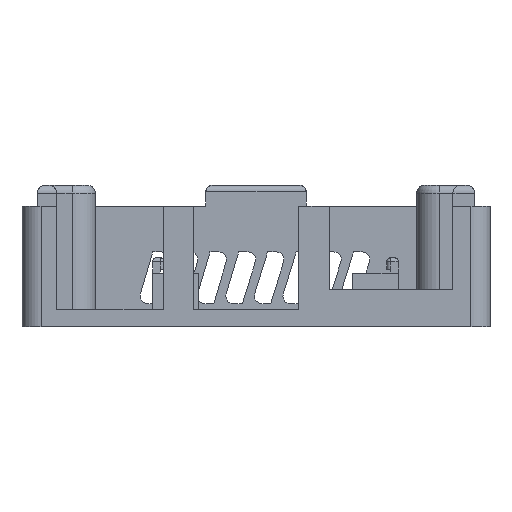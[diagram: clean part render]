
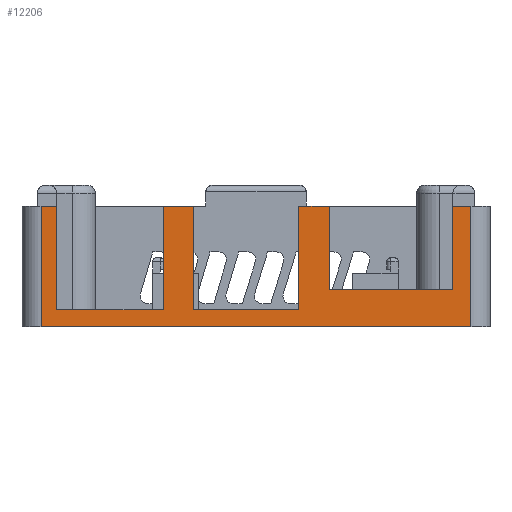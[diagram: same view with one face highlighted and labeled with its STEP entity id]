
A CAD part, left-side view. The second image highlights one B-rep face of the part: STEP entity #12206.
In plain terms, the highlighted planar face has unit normal (-1, 0, 0).
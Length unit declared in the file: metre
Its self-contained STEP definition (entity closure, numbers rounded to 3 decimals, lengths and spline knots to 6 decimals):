
#2011=ORIENTED_EDGE('',*,*,#5679,.F.);
#2012=ORIENTED_EDGE('',*,*,#5671,.F.);
#2013=ORIENTED_EDGE('',*,*,#5680,.T.);
#2014=ORIENTED_EDGE('',*,*,#5681,.T.);
#2015=ORIENTED_EDGE('',*,*,#5682,.F.);
#2016=ORIENTED_EDGE('',*,*,#5675,.F.);
#2017=ORIENTED_EDGE('',*,*,#5683,.T.);
#2018=ORIENTED_EDGE('',*,*,#5684,.T.);
#2019=ORIENTED_EDGE('',*,*,#5685,.F.);
#2020=ORIENTED_EDGE('',*,*,#5531,.F.);
#2021=ORIENTED_EDGE('',*,*,#5686,.T.);
#2022=ORIENTED_EDGE('',*,*,#5687,.T.);
#2023=ORIENTED_EDGE('',*,*,#5688,.F.);
#2024=ORIENTED_EDGE('',*,*,#5669,.F.);
#2025=ORIENTED_EDGE('',*,*,#5689,.T.);
#2026=ORIENTED_EDGE('',*,*,#5690,.T.);
#5531=EDGE_CURVE('',#7366,#7367,#8286,.T.);
#5669=EDGE_CURVE('',#7496,#7497,#8388,.T.);
#5671=EDGE_CURVE('',#7498,#7499,#8389,.T.);
#5675=EDGE_CURVE('',#7502,#7503,#8393,.T.);
#5679=EDGE_CURVE('',#7499,#7506,#8397,.T.);
#5680=EDGE_CURVE('',#7498,#7507,#8398,.T.);
#5681=EDGE_CURVE('',#7507,#7508,#8399,.T.);
#5682=EDGE_CURVE('',#7503,#7508,#8400,.T.);
#5683=EDGE_CURVE('',#7502,#7509,#8401,.T.);
#5684=EDGE_CURVE('',#7509,#7510,#8402,.T.);
#5685=EDGE_CURVE('',#7367,#7510,#8403,.T.);
#5686=EDGE_CURVE('',#7366,#7511,#8404,.T.);
#5687=EDGE_CURVE('',#7511,#7512,#8405,.T.);
#5688=EDGE_CURVE('',#7497,#7512,#8406,.T.);
#5689=EDGE_CURVE('',#7496,#7513,#8407,.T.);
#5690=EDGE_CURVE('',#7513,#7506,#8408,.T.);
#7366=VERTEX_POINT('',#18001);
#7367=VERTEX_POINT('',#18003);
#7496=VERTEX_POINT('',#18276);
#7497=VERTEX_POINT('',#18278);
#7498=VERTEX_POINT('',#18282);
#7499=VERTEX_POINT('',#18283);
#7502=VERTEX_POINT('',#18291);
#7503=VERTEX_POINT('',#18292);
#7506=VERTEX_POINT('',#18300);
#7507=VERTEX_POINT('',#18302);
#7508=VERTEX_POINT('',#18304);
#7509=VERTEX_POINT('',#18307);
#7510=VERTEX_POINT('',#18309);
#7511=VERTEX_POINT('',#18312);
#7512=VERTEX_POINT('',#18314);
#7513=VERTEX_POINT('',#18317);
#8286=LINE('',#18002,#9498);
#8388=LINE('',#18277,#9600);
#8389=LINE('',#18281,#9601);
#8393=LINE('',#18290,#9605);
#8397=LINE('',#18299,#9609);
#8398=LINE('',#18301,#9610);
#8399=LINE('',#18303,#9611);
#8400=LINE('',#18305,#9612);
#8401=LINE('',#18306,#9613);
#8402=LINE('',#18308,#9614);
#8403=LINE('',#18310,#9615);
#8404=LINE('',#18311,#9616);
#8405=LINE('',#18313,#9617);
#8406=LINE('',#18315,#9618);
#8407=LINE('',#18316,#9619);
#8408=LINE('',#18318,#9620);
#9498=VECTOR('',#14257,1.);
#9600=VECTOR('',#14445,1.);
#9601=VECTOR('',#14450,1.);
#9605=VECTOR('',#14456,1.);
#9609=VECTOR('',#14462,1.);
#9610=VECTOR('',#14463,1.);
#9611=VECTOR('',#14464,1.);
#9612=VECTOR('',#14465,1.);
#9613=VECTOR('',#14466,1.);
#9614=VECTOR('',#14467,1.);
#9615=VECTOR('',#14468,1.);
#9616=VECTOR('',#14469,1.);
#9617=VECTOR('',#14470,1.);
#9618=VECTOR('',#14471,1.);
#9619=VECTOR('',#14472,1.);
#9620=VECTOR('',#14473,1.);
#10448=EDGE_LOOP('',(#2011,#2012,#2013,#2014,#2015,#2016,#2017,#2018,#2019,
#2020,#2021,#2022,#2023,#2024,#2025,#2026));
#11213=FACE_BOUND('',#10448,.T.);
#11870=PLANE('',#13054);
#12206=ADVANCED_FACE('',(#11213),#11870,.F.);
#13054=AXIS2_PLACEMENT_3D('',#18298,#14460,#14461);
#14257=DIRECTION('',(0.,-1.,0.));
#14445=DIRECTION('',(0.,-1.,0.));
#14450=DIRECTION('',(0.,-1.,0.));
#14456=DIRECTION('',(0.,-1.,0.));
#14460=DIRECTION('',(1.,0.,0.));
#14461=DIRECTION('',(0.,0.,-1.));
#14462=DIRECTION('',(0.,0.,-1.));
#14463=DIRECTION('',(0.,0.,-1.));
#14464=DIRECTION('',(0.,1.,0.));
#14465=DIRECTION('',(0.,0.,-1.));
#14466=DIRECTION('',(0.,0.,-1.));
#14467=DIRECTION('',(0.,1.,0.));
#14468=DIRECTION('',(0.,0.,-1.));
#14469=DIRECTION('',(0.,0.,-1.));
#14470=DIRECTION('',(0.,-1.,0.));
#14471=DIRECTION('',(0.,0.,-1.));
#14472=DIRECTION('',(0.,0.,-1.));
#14473=DIRECTION('',(0.,1.,0.));
#18001=CARTESIAN_POINT('',(-0.044515,0.028114,0.01578));
#18002=CARTESIAN_POINT('',(-0.044515,-0.018937,0.01578));
#18003=CARTESIAN_POINT('',(-0.044515,0.026079,0.01578));
#18276=CARTESIAN_POINT('',(-0.044515,-0.025857,0.01578));
#18277=CARTESIAN_POINT('',(-0.044515,-0.018937,0.01578));
#18278=CARTESIAN_POINT('',(-0.044515,-0.028216,0.01578));
#18281=CARTESIAN_POINT('',(-0.044515,-0.018937,0.01578));
#18282=CARTESIAN_POINT('',(-0.044515,-0.005657,0.01578));
#18283=CARTESIAN_POINT('',(-0.044515,-0.009657,0.01578));
#18290=CARTESIAN_POINT('',(-0.044515,-0.018937,0.01578));
#18291=CARTESIAN_POINT('',(-0.044515,0.012106,0.01578));
#18292=CARTESIAN_POINT('',(-0.044515,0.008106,0.01578));
#18298=CARTESIAN_POINT('',(-0.044515,-0.018937,0.01578));
#18299=CARTESIAN_POINT('',(-0.044515,-0.009657,0.010339));
#18300=CARTESIAN_POINT('',(-0.044515,-0.009657,0.004898));
#18301=CARTESIAN_POINT('',(-0.044515,-0.005657,0.008989));
#18302=CARTESIAN_POINT('',(-0.044515,-0.005657,0.002198));
#18303=CARTESIAN_POINT('',(-0.044515,0.001224,0.002198));
#18304=CARTESIAN_POINT('',(-0.044515,0.008106,0.002198));
#18305=CARTESIAN_POINT('',(-0.044515,0.008106,0.008989));
#18306=CARTESIAN_POINT('',(-0.044515,0.012106,0.008989));
#18307=CARTESIAN_POINT('',(-0.044515,0.012106,0.002198));
#18308=CARTESIAN_POINT('',(-0.044515,0.019092,0.002198));
#18309=CARTESIAN_POINT('',(-0.044515,0.026079,0.002198));
#18310=CARTESIAN_POINT('',(-0.044515,0.026079,0.008989));
#18311=CARTESIAN_POINT('',(-0.044515,0.028114,0.01578));
#18312=CARTESIAN_POINT('',(-0.044515,0.028114,0.));
#18313=CARTESIAN_POINT('',(-0.044515,-0.018937,0.));
#18314=CARTESIAN_POINT('',(-0.044515,-0.028216,0.));
#18315=CARTESIAN_POINT('',(-0.044515,-0.028216,0.01578));
#18316=CARTESIAN_POINT('',(-0.044515,-0.025857,0.010339));
#18317=CARTESIAN_POINT('',(-0.044515,-0.025857,0.004898));
#18318=CARTESIAN_POINT('',(-0.044515,-0.017757,0.004898));
